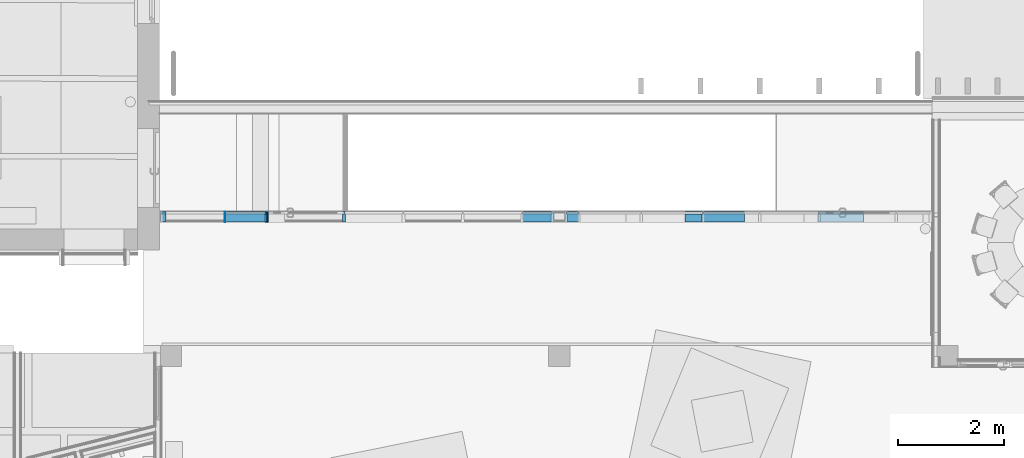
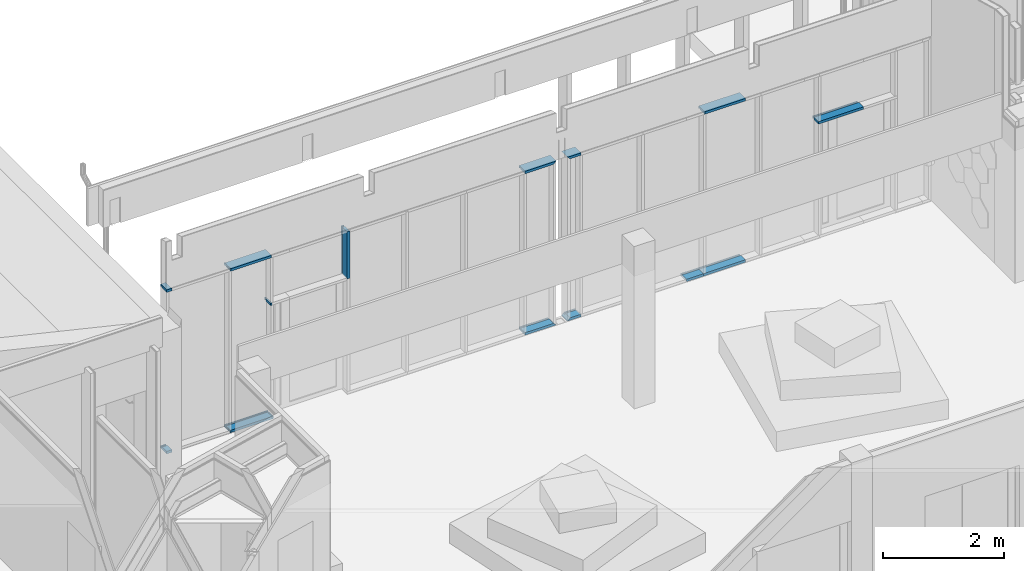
# One storey, part 32 of 153: 17 members, 2 elements without a shape of their own.
"""IFC2X3 building model written with IfcOpenShell, lengths in millimetres."""

from ifc_helpers import new_model, entity, si_unit, converted_unit, derived_unit, money_unit, direction, frame, origin_with_axes, place, context, subcontext, project, spatial, faceted_brep, material, type_object, element, aggregate, save


model = new_model("IFC2X3")

# Units and contexts
model_context = context("Model", 3, precision=0.01, world=origin_with_axes(), true_north=direction((0.0, 1.0)))
body_context = subcontext(model_context, "Body", "Model", "MODEL_VIEW")
ifc_project = project(units=[si_unit("LENGTHUNIT", "METRE", prefix="MILLI"), si_unit("AREAUNIT", "SQUARE_METRE"), si_unit("VOLUMEUNIT", "CUBIC_METRE"), converted_unit("PLANEANGLEUNIT", "DEGREE", entity("IfcPlaneAngleMeasure", 0.0174532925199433), si_unit("PLANEANGLEUNIT", "RADIAN"), dimensions=[0, 0, 0, 0, 0, 0, 0]), money_unit("EUR"), converted_unit("TIMEUNIT", "Year", entity("IfcTimeMeasure", 31557600.0), si_unit("TIMEUNIT", "SECOND"), dimensions=[0, 0, 1, 0, 0, 0, 0]), si_unit("MASSUNIT", "GRAM", prefix="KILO"), si_unit("THERMODYNAMICTEMPERATUREUNIT", "DEGREE_CELSIUS"), si_unit("LUMINOUSINTENSITYUNIT", "LUMEN"), si_unit("ENERGYUNIT", "JOULE", prefix="MEGA"), derived_unit("THERMALCONDUCTANCEUNIT", [(si_unit("POWERUNIT", "WATT"), 1), (si_unit("LENGTHUNIT", "METRE"), -1), (si_unit("THERMODYNAMICTEMPERATUREUNIT", "KELVIN"), -1)]), derived_unit("SPECIFICHEATCAPACITYUNIT", [(si_unit("ENERGYUNIT", "JOULE"), 1), (si_unit("MASSUNIT", "GRAM", prefix="KILO"), -1), (si_unit("THERMODYNAMICTEMPERATUREUNIT", "KELVIN"), -1)]), derived_unit("MASSDENSITYUNIT", [(si_unit("MASSUNIT", "GRAM", prefix="KILO"), 1), (si_unit("VOLUMEUNIT", "CUBIC_METRE"), -1)])], contexts=[model_context])

# Site, building, storey
site_placement = place(None, frame((0.0, 0.0, 8650.0), z_axis=(0.0, 0.0, 1.0), x_axis=(1.0, 0.0, 0.0)))
site = spatial("IfcSite", under=ifc_project, at=site_placement, Name="43301:001:0844", CompositionType="ELEMENT")
building_placement = place(site_placement, origin_with_axes())
building = spatial("IfcBuilding", under=site, at=building_placement, Name="Kuressaare Ametikooli tuulikute mehaanikute õppekorpus", CompositionType="ELEMENT")
storey_placement = place(building_placement, frame((0.0, 0.0, 4100.0), z_axis=(0.0, 0.0, 1.0), x_axis=(1.0, 0.0, 0.0)))
storey = spatial("IfcBuildingStorey", under=building, at=storey_placement, Name="2.korrus", CompositionType="ELEMENT", Elevation=4100.0)

# Curtain wall, members
curtain_wall_type = type_object("IfcCurtainWallType", Name="Curtain Wall Type", PredefinedType="NOTDEFINED")
curtain_wall_1_placement = place(storey_placement, frame((107592.1026822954, 26479.57374875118, 34.9999663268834), z_axis=(0.0, 0.0, 1.0), x_axis=(1.0, 0.0, 0.0)))
curtain_wall_1 = element("IfcCurtainWall", 1, at=curtain_wall_1_placement, inside=storey, type_object=curtain_wall_type, Name="SKF-2.1,EI60")
ifc_material = material(Name="Aluminium")
member_type_1 = type_object("IfcMemberType", Name="Boundary Frame 50 x 200", PredefinedType="NOTDEFINED")
member_1_placement = place(curtain_wall_1_placement, frame((-1919.216088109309, 0.0, 2300.000019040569), z_axis=(0.9999999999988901, 0.0, -1.48993266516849e-06), x_axis=(1.48993266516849e-06, 0.0, 0.9999999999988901)))
member_1 = element("IfcMember", 2, at=member_1_placement, type_object=member_type_1, material=ifc_material, context=body_context, shape_type="Brep", body=[
    faceted_brep([(-4.999986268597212, 19.99999999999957, 9.216126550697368), (-4.999986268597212, -19.99999999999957, 9.216126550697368), (-24.99998626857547, -19.99999999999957, 9.216156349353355), (-24.99998626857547, -30.00000000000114, 9.216156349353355), (25.00001373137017, -30.00000000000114, 9.216081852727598), (25.00001373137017, -19.99999999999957, 9.216081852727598), (5.000013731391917, -19.99999999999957, 9.216111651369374), (5.000013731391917, 19.99999999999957, 9.216111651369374), (25.00001373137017, 19.99999999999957, 9.216081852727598), (25.00001373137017, 170.0000000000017, 9.216081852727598), (-24.99998626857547, 170.0000000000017, 9.216156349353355), (-24.99998626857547, 19.99999999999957, 9.216156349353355), (-5.000037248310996, 19.99999999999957, -24.99999255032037), (-5.000037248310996, -19.99999999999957, -24.99999255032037), (-25.00003724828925, -19.99999999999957, -24.99996275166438), (-25.00003724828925, -30.00000000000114, -24.99996275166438), (24.99996275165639, -30.00000000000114, -25.00003724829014), (24.99996275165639, -19.99999999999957, -25.00003724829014), (4.999962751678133, -19.99999999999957, -25.00000744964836), (4.999962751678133, 19.99999999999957, -25.00000744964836), (24.99996275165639, 19.99999999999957, -25.00003724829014), (24.99996275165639, 170.0000000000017, -25.00003724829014), (-25.00003724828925, 170.0000000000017, -24.99996275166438), (-25.00003724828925, 19.99999999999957, -24.99996275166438)], [[[0, 1, 2, 3, 4, 5, 6, 7, 8, 9, 10, 11]], [[0, 12, 13, 1]], [[1, 13, 14, 2]], [[14, 15, 3, 2]], [[3, 15, 16, 4]], [[17, 5, 4, 16]], [[5, 17, 18, 6]], [[7, 6, 18, 19]], [[8, 7, 19, 20]], [[8, 20, 21, 9]], [[9, 21, 22, 10]], [[11, 10, 22, 23]], [[11, 23, 12, 0]], [[13, 12, 23, 22, 21, 20, 19, 18, 17, 16, 15, 14]]]),
])
member_2_placement = place(curtain_wall_1_placement, frame((-1910.000006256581, 0.0, 0.0), z_axis=(1.0, 0.0, 0.0), x_axis=(0.0, 0.0, 1.0)))
member_2 = element("IfcMember", 3, at=member_2_placement, type_object=member_type_1, material=ifc_material, context=body_context, shape_type="Brep", body=[
    faceted_brep([(4.999999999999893, 19.99999999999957, 27.79156504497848), (25.00000000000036, 19.99999999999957, 27.79156504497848), (25.00000000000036, 170.0000000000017, 27.79156504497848), (-25.00000000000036, 170.0000000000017, 27.79156504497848), (-25.00000000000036, -30.00000000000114, 27.79156504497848), (25.00000000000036, -30.00000000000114, 27.79156504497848), (25.00000000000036, -19.99999999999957, 27.79156504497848), (4.999999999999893, -19.99999999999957, 27.79156504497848), (4.999999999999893, 19.99999999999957, 0.0), (25.00000000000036, 19.99999999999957, 0.0), (25.00000000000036, 170.0000000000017, 0.0), (-25.00000000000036, 170.0000000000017, 0.0), (-25.00000000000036, -30.00000000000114, 0.0), (25.00000000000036, -30.00000000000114, 0.0), (25.00000000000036, -19.99999999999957, 0.0), (4.999999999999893, -19.99999999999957, 0.0)], [[[0, 1, 2, 3, 4, 5, 6, 7]], [[0, 8, 9, 1]], [[9, 10, 2, 1]], [[10, 11, 3, 2]], [[11, 12, 4, 3]], [[12, 13, 5, 4]], [[6, 5, 13, 14]], [[14, 15, 7, 6]], [[7, 15, 8, 0]], [[8, 15, 14, 13, 12, 11, 10, 9]]]),
])
member_3_placement = place(curtain_wall_1_placement, frame((-2705.896576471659, 0.0, 0.0), z_axis=(1.0, 0.0, 0.0), x_axis=(0.0, 0.0, 1.0)))
member_3 = element("IfcMember", 4, at=member_3_placement, type_object=member_type_1, material=ifc_material, context=body_context, shape_type="Brep", body=[
    faceted_brep([(4.999999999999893, 19.99999999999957, 5.896576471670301), (5.896576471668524, 19.99999999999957, 5.896576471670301), (5.896576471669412, 170.0000000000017, 5.896576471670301), (-25.00000000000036, 170.0000000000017, 5.896576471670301), (-25.00000000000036, -30.00000000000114, 5.896576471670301), (5.896576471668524, -30.00000000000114, 5.896576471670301), (5.896576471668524, -19.99999999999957, 5.896576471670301), (4.999999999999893, -19.99999999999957, 5.896576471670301), (4.999999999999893, 19.99999999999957, 4.999999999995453), (4.999999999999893, -19.99999999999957, 4.999999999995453), (0.0, -30.00000000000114, 0.0), (0.0, 170.0000000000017, 0.0), (-25.00000000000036, 170.0000000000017, 0.0), (-25.00000000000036, -30.00000000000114, 0.0)], [[[0, 1, 2, 3, 4, 5, 6, 7]], [[0, 8, 1]], [[8, 9, 6, 5, 10, 11, 2, 1]], [[2, 11, 12, 3]], [[3, 12, 13, 4]], [[10, 5, 4, 13]], [[9, 7, 6]], [[7, 9, 8, 0]], [[11, 10, 13, 12]]]),
])
member_4_placement = place(curtain_wall_1_placement, frame((2925.000000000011, 0.0, 0.0), z_axis=(1.0, 0.0, 0.0), x_axis=(0.0, 0.0, 1.0)))
member_4 = element("IfcMember", 5, at=member_4_placement, type_object=member_type_1, material=ifc_material, context=body_context, shape_type="Brep", body=[
    faceted_brep([(4.999999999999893, 19.99999999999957, 560.8466960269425), (25.00000000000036, 19.99999999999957, 540.8466962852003), (25.00000000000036, 170.0000000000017, 540.8466962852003), (-25.00000000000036, 170.0000000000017, 590.8466956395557), (-25.00000000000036, -30.00000000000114, 590.8466956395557), (25.00000000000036, -30.00000000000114, 540.8466962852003), (25.00000000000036, -19.99999999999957, 540.8466962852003), (4.999999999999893, -19.99999999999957, 560.8466960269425), (4.999999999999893, 19.99999999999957, 0.0), (25.00000000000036, 19.99999999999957, 0.0), (25.00000000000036, 170.0000000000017, 0.0), (-25.00000000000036, 170.0000000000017, 0.0), (-25.00000000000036, -30.00000000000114, 0.0), (25.00000000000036, -30.00000000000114, 0.0), (25.00000000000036, -19.99999999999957, 0.0), (4.999999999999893, -19.99999999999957, 0.0)], [[[0, 1, 2, 3, 4, 5, 6, 7]], [[0, 8, 9, 1]], [[9, 10, 2, 1]], [[10, 11, 3, 2]], [[11, 12, 4, 3]], [[12, 13, 5, 4]], [[6, 5, 13, 14]], [[14, 15, 7, 6]], [[7, 15, 8, 0]], [[8, 15, 14, 13, 12, 11, 10, 9]]]),
])
member_5_placement = place(curtain_wall_1_placement, frame((-2699.999999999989, 0.0, 0.0), z_axis=(1.0, 0.0, 0.0), x_axis=(0.0, 0.0, 1.0)))
member_5 = element("IfcMember", 6, at=member_5_placement, type_object=member_type_1, material=ifc_material, context=body_context, shape_type="Brep", body=[
    faceted_brep([(4.999999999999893, 19.99999999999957, 789.9999937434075), (25.00000000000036, 19.99999999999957, 789.9999937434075), (25.00000000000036, 170.0000000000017, 789.9999937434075), (-25.00000000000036, 170.0000000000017, 789.9999937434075), (-25.00000000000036, -30.00000000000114, 789.9999937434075), (25.00000000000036, -30.00000000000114, 789.9999937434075), (25.00000000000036, -19.99999999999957, 789.9999937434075), (4.999999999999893, -19.99999999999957, 789.9999937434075), (4.999999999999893, 19.99999999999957, 0.0), (25.00000000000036, 19.99999999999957, 0.0), (25.00000000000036, 170.0000000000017, 0.0), (-25.00000000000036, 170.0000000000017, 0.0), (-25.00000000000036, -30.00000000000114, 0.0), (25.00000000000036, -30.00000000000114, 0.0), (25.00000000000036, -19.99999999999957, 0.0), (4.999999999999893, -19.99999999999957, 0.0)], [[[0, 1, 2, 3, 4, 5, 6, 7]], [[0, 8, 9, 1]], [[9, 10, 2, 1]], [[10, 11, 3, 2]], [[11, 12, 4, 3]], [[12, 13, 5, 4]], [[6, 5, 13, 14]], [[14, 15, 7, 6]], [[7, 15, 8, 0]], [[8, 15, 14, 13, 12, 11, 10, 9]]]),
])
member_6_placement = place(curtain_wall_1_placement, frame((-3900.000012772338, 0.0, 0.0), z_axis=(1.0, 0.0, 0.0), x_axis=(0.0, 0.0, 1.0)))
member_6 = element("IfcMember", 7, at=member_6_placement, type_object=member_type_1, material=ifc_material, context=body_context, shape_type="Brep", body=[
    faceted_brep([(4.999999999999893, 19.99999999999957, 75.00001277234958), (25.00000000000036, 19.99999999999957, 75.00001277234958), (25.00000000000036, 170.0000000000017, 75.00001277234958), (-25.00000000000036, 170.0000000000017, 75.00001277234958), (-25.00000000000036, -30.00000000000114, 75.00001277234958), (25.00000000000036, -30.00000000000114, 75.00001277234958), (25.00000000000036, -19.99999999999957, 75.00001277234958), (4.999999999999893, -19.99999999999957, 75.00001277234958), (4.999999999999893, 19.99999999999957, -25.00000000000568), (25.00000000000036, 19.99999999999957, -25.00000000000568), (25.00000000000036, 170.0000000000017, -25.00000000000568), (-25.00000000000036, 170.0000000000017, -25.00000000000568), (-25.00000000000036, -30.00000000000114, -25.00000000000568), (25.00000000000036, -30.00000000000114, -25.00000000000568), (25.00000000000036, -19.99999999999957, -25.00000000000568), (4.999999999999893, -19.99999999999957, -25.00000000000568)], [[[0, 1, 2, 3, 4, 5, 6, 7]], [[0, 8, 9, 1]], [[9, 10, 2, 1]], [[10, 11, 3, 2]], [[11, 12, 4, 3]], [[12, 13, 5, 4]], [[6, 5, 13, 14]], [[14, 15, 7, 6]], [[7, 15, 8, 0]], [[8, 15, 14, 13, 12, 11, 10, 9]]]),
])
member_7_placement = place(curtain_wall_1_placement, frame((-3824.999999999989, 0.0, 3260.00008492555), z_axis=(-0.9999999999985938, 0.0, -1.677044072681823e-06), x_axis=(1.677044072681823e-06, 0.0, -0.9999999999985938)))
member_7 = element("IfcMember", 8, at=member_7_placement, type_object=member_type_1, material=ifc_material, context=body_context, shape_type="Brep", body=[
    faceted_brep([(4.999832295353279, 19.99999999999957, 100.0001469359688), (24.99983229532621, 19.99999999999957, 100.0001804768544), (24.99983229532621, 170.0000000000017, 100.0001804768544), (-25.00016770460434, 170.0000000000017, 100.0000966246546), (-25.00016770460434, -30.00000000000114, 100.0000966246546), (24.99983229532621, -30.00000000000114, 100.0001804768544), (24.99983229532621, -19.99999999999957, 100.0001804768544), (4.999832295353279, -19.99999999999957, 100.0001469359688), (5.000000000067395, 19.99999999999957, -3.60527678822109e-05), (25.00000000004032, 19.99999999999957, -2.511882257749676e-06), (25.00000000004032, 170.0000000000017, -2.511882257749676e-06), (-24.99999999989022, 170.0000000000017, -8.636408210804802e-05), (-24.99999999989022, -30.00000000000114, -8.636408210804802e-05), (25.00000000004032, -30.00000000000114, -2.511882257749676e-06), (25.00000000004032, -19.99999999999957, -2.511882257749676e-06), (5.000000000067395, -19.99999999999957, -3.60527678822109e-05)], [[[0, 1, 2, 3, 4, 5, 6, 7]], [[0, 8, 9, 1]], [[9, 10, 2, 1]], [[10, 11, 3, 2]], [[11, 12, 4, 3]], [[12, 13, 5, 4]], [[6, 5, 13, 14]], [[14, 15, 7, 6]], [[7, 15, 8, 0]], [[8, 15, 14, 13, 12, 11, 10, 9]]]),
])
member_8_placement = place(curtain_wall_1_placement, frame((-2699.999999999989, 0.0, 3260.00005360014), z_axis=(-0.9999999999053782, 0.0, -1.375657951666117e-05), x_axis=(1.375657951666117e-05, 0.0, -0.9999999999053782)))
member_8 = element("IfcMember", 9, at=member_8_placement, type_object=member_type_1, material=ifc_material, context=body_context, shape_type="Brep", body=[
    faceted_brep([(5.000000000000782, 19.99999999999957, 0.8966452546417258), (5.897001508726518, 19.99999999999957, -0.0003439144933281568), (5.897001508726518, 170.0000000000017, -0.0003439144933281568), (0.0, 170.0000000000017, 5.896576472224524), (0.0, -30.00000000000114, 5.896576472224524), (5.897001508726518, -30.00000000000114, -0.0003439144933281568), (5.897001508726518, -19.99999999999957, -0.0003439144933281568), (5.000000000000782, -19.99999999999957, 0.8966452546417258), (4.999999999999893, 19.99999999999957, -0.0003439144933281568), (4.999999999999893, -19.99999999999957, -0.0003439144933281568), (-25.00000000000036, -30.00000000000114, -0.0003439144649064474), (-25.00000000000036, 170.0000000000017, -0.0003439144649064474), (-24.99999999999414, 170.0000000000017, 5.896576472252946), (-24.99999999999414, -30.00000000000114, 5.896576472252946)], [[[0, 1, 2, 3, 4, 5, 6, 7]], [[0, 8, 1]], [[8, 9, 6, 5, 10, 11, 2, 1]], [[3, 2, 11, 12]], [[4, 3, 12, 13]], [[5, 4, 13, 10]], [[9, 7, 6]], [[7, 9, 8, 0]], [[12, 11, 10, 13]]]),
])
member_9_placement = place(curtain_wall_1_placement, frame((-1919.21608482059, 0.0, 3260.00005360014), z_axis=(-1.0, 0.0, 0.0), x_axis=(0.0, 0.0, -1.0)))
member_9 = element("IfcMember", 10, at=member_9_placement, type_object=member_type_1, material=ifc_material, context=body_context, shape_type="Brep", body=[
    faceted_brep([(4.999999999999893, 19.99999999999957, 780.7842590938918), (25.00000000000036, 19.99999999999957, 780.7842590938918), (25.00000000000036, 170.0000000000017, 780.7842590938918), (-25.00000000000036, 170.0000000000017, 780.7842590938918), (-25.00000000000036, -30.00000000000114, 780.7842590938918), (25.00000000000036, -30.00000000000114, 780.7842590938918), (25.00000000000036, -19.99999999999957, 780.7842590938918), (4.999999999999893, -19.99999999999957, 780.7842590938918), (4.999999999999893, 19.99999999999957, 0.0), (25.00000000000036, 19.99999999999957, 0.0), (25.00000000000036, 170.0000000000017, 0.0), (-25.00000000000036, 170.0000000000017, 0.0), (-25.00000000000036, -30.00000000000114, 0.0), (25.00000000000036, -30.00000000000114, 0.0), (25.00000000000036, -19.99999999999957, 0.0), (4.999999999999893, -19.99999999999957, 0.0)], [[[0, 1, 2, 3, 4, 5, 6, 7]], [[0, 8, 9, 1]], [[9, 10, 2, 1]], [[10, 11, 3, 2]], [[11, 12, 4, 3]], [[12, 13, 5, 4]], [[6, 5, 13, 14]], [[14, 15, 7, 6]], [[7, 15, 8, 0]], [[8, 15, 14, 13, 12, 11, 10, 9]]]),
])
member_10_placement = place(curtain_wall_1_placement, frame((3490.846738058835, 0.0, 3260.000092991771), z_axis=(-0.9999999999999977, 0.0, -6.961537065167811e-08), x_axis=(6.961537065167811e-08, 0.0, -0.9999999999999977)))
member_10 = element("IfcMember", 11, at=member_10_placement, type_object=member_type_1, material=ifc_material, context=body_context, shape_type="Brep", body=[
    faceted_brep([(4.999960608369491, 19.99999999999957, 565.8467401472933), (24.99996060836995, 19.99999999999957, 565.8467415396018), (24.99996060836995, 170.0000000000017, 565.8467415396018), (-25.00003939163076, 170.0000000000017, 565.8467380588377), (-25.00003939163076, -30.00000000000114, 565.8467380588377), (24.99996060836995, -30.00000000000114, 565.8467415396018), (24.99996060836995, -19.99999999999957, 565.8467415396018), (4.999960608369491, -19.99999999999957, 565.8467401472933), (4.999999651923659, 19.99999999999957, 5.000000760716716), (24.99999825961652, 19.99999999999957, 25.00000380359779), (24.99999825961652, 170.0000000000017, 25.00000380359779), (-24.99999825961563, 170.0000000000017, -25.00000380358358), (-24.99999825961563, -30.00000000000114, -25.00000380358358), (24.99999825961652, -30.00000000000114, 25.00000380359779), (24.99999825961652, -19.99999999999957, 25.00000380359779), (4.999999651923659, -19.99999999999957, 5.000000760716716)], [[[0, 1, 2, 3, 4, 5, 6, 7]], [[0, 8, 9, 1]], [[9, 10, 2, 1]], [[2, 10, 11, 3]], [[3, 11, 12, 4]], [[4, 12, 13, 5]], [[6, 5, 13, 14]], [[14, 15, 7, 6]], [[7, 15, 8, 0]], [[8, 15, 14, 13, 12, 11, 10, 9]]]),
])

curtain_wall_2_placement = place(storey_placement, frame((116907.3849272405, 26479.57374875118, 34.9999663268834), z_axis=(0.0, 0.0, 1.0), x_axis=(1.0, 0.0, 0.0)))
curtain_wall_2 = element("IfcCurtainWall", 12, at=curtain_wall_2_placement, inside=storey, type_object=curtain_wall_type, Name="SKF-2.2,EI60")
member_11_placement = place(curtain_wall_2_placement, frame((-5320.345028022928, 0.0, 3259.999983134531), z_axis=(-1.0, 0.0, 0.0), x_axis=(0.0, 0.0, -1.0)))
member_11 = element("IfcMember", 13, at=member_11_placement, type_object=member_type_1, material=ifc_material, context=body_context, shape_type="Brep", body=[
    faceted_brep([(4.999999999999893, 19.99999999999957, 229.0905246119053), (25.00000000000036, 19.99999999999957, 209.090524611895), (25.00000000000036, 170.0000000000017, 209.090524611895), (-25.00000000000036, 170.0000000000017, 259.0905246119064), (-25.00000000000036, -30.00000000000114, 259.0905246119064), (25.00000000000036, -30.00000000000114, 209.090524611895), (25.00000000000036, -19.99999999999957, 209.090524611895), (4.999999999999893, -19.99999999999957, 229.0905246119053), (4.999999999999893, 19.99999999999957, 0.0), (25.00000000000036, 19.99999999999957, 0.0), (25.00000000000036, 170.0000000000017, 0.0), (-25.00000000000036, 170.0000000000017, 0.0), (-25.00000000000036, -30.00000000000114, 0.0), (25.00000000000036, -30.00000000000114, 0.0), (25.00000000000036, -19.99999999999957, 0.0), (4.999999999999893, -19.99999999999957, 0.0)], [[[0, 1, 2, 3, 4, 5, 6, 7]], [[0, 8, 9, 1]], [[9, 10, 2, 1]], [[10, 11, 3, 2]], [[11, 12, 4, 3]], [[12, 13, 5, 4]], [[6, 5, 13, 14]], [[14, 15, 7, 6]], [[7, 15, 8, 0]], [[8, 15, 14, 13, 12, 11, 10, 9]]]),
])
member_12_placement = place(curtain_wall_2_placement, frame((-2179.435552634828, 0.0, 3259.999983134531), z_axis=(-1.0, 0.0, 0.0), x_axis=(0.0, 0.0, -1.0)))
member_12 = element("IfcMember", 14, at=member_12_placement, type_object=member_type_1, material=ifc_material, context=body_context, shape_type="Brep", body=[
    faceted_brep([(4.999999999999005, 19.99999999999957, 780.7838659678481), (24.99999999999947, 19.99999999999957, 780.7838659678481), (24.99999999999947, 170.0000000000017, 780.7838659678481), (-25.00000000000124, 170.0000000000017, 780.7838659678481), (-25.00000000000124, -30.00000000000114, 780.7838659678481), (24.99999999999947, -30.00000000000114, 780.7838659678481), (24.99999999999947, -19.99999999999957, 780.7838659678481), (4.999999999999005, -19.99999999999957, 780.7838659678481), (4.999999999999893, 19.99999999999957, 0.0), (25.00000000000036, 19.99999999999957, 0.0), (25.00000000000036, 170.0000000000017, 0.0), (-25.00000000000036, 170.0000000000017, 0.0), (-25.00000000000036, -30.00000000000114, 0.0), (25.00000000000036, -30.00000000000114, 0.0), (25.00000000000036, -19.99999999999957, 0.0), (4.999999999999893, -19.99999999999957, 0.0)], [[[0, 1, 2, 3, 4, 5, 6, 7]], [[0, 8, 9, 1]], [[9, 10, 2, 1]], [[10, 11, 3, 2]], [[11, 12, 4, 3]], [[12, 13, 5, 4]], [[6, 5, 13, 14]], [[14, 15, 7, 6]], [[7, 15, 8, 0]], [[8, 15, 14, 13, 12, 11, 10, 9]]]),
])
member_13_placement = place(curtain_wall_2_placement, frame((-2960.219440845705, 0.0, 0.0), z_axis=(1.0, 0.0, 0.0), x_axis=(0.0, 0.0, 1.0)))
member_13 = element("IfcMember", 15, at=member_13_placement, type_object=member_type_1, material=ifc_material, context=body_context, shape_type="Brep", body=[
    faceted_brep([(4.999999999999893, 19.99999999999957, 780.7838882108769), (25.00000000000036, 19.99999999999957, 780.7838882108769), (25.00000000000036, 170.0000000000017, 780.7838882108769), (-25.00000000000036, 170.0000000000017, 780.7838882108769), (-25.00000000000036, -30.00000000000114, 780.7838882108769), (25.00000000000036, -30.00000000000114, 780.7838882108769), (25.00000000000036, -19.99999999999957, 780.7838882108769), (4.999999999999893, -19.99999999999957, 780.7838882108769), (4.999999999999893, 19.99999999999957, -25.00000000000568), (25.00000000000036, 19.99999999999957, -25.00000000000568), (25.00000000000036, 170.0000000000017, -25.00000000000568), (-25.00000000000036, 170.0000000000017, -25.00000000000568), (-25.00000000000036, -30.00000000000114, -25.00000000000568), (25.00000000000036, -30.00000000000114, -25.00000000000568), (25.00000000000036, -19.99999999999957, -25.00000000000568), (4.999999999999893, -19.99999999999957, -25.00000000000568)], [[[0, 1, 2, 3, 4, 5, 6, 7]], [[0, 8, 9, 1]], [[9, 10, 2, 1]], [[10, 11, 3, 2]], [[11, 12, 4, 3]], [[12, 13, 5, 4]], [[6, 5, 13, 14]], [[14, 15, 7, 6]], [[7, 15, 8, 0]], [[8, 15, 14, 13, 12, 11, 10, 9]]]),
])
member_14_placement = place(curtain_wall_2_placement, frame((-3304.435552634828, 0.0, 0.0), z_axis=(1.0, 0.0, 0.0), x_axis=(0.0, 0.0, 1.0)))
member_14 = element("IfcMember", 16, at=member_14_placement, type_object=member_type_1, material=ifc_material, context=body_context, shape_type="Brep", body=[
    faceted_brep([(4.999999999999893, 19.99999999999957, 319.2161414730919), (25.00000000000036, 19.99999999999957, 319.2161414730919), (25.00000000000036, 170.0000000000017, 319.2161414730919), (-25.00000000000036, 170.0000000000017, 319.2161414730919), (-25.00000000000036, -30.00000000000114, 319.2161414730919), (25.00000000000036, -30.00000000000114, 319.2161414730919), (25.00000000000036, -19.99999999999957, 319.2161414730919), (4.999999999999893, -19.99999999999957, 319.2161414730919), (4.999999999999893, 19.99999999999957, 0.0), (25.00000000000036, 19.99999999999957, 0.0), (25.00000000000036, 170.0000000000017, 0.0), (-25.00000000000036, 170.0000000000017, 0.0), (-25.00000000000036, -30.00000000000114, 0.0), (25.00000000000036, -30.00000000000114, 0.0), (25.00000000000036, -19.99999999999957, 0.0), (4.999999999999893, -19.99999999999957, 0.0)], [[[0, 1, 2, 3, 4, 5, 6, 7]], [[0, 8, 9, 1]], [[9, 10, 2, 1]], [[10, 11, 3, 2]], [[11, 12, 4, 3]], [[12, 13, 5, 4]], [[6, 5, 13, 14]], [[14, 15, 7, 6]], [[7, 15, 8, 0]], [[8, 15, 14, 13, 12, 11, 10, 9]]]),
])
member_15_placement = place(curtain_wall_2_placement, frame((-765.2822352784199, 0.0, 2300.000031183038), z_axis=(1.0, 0.0, 0.0), x_axis=(0.0, 0.0, 1.0)))
member_15 = element("IfcMember", 17, at=member_15_placement, type_object=member_type_1, material=ifc_material, context=body_context, shape_type="Brep", body=[
    faceted_brep([(-4.999999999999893, 19.99999999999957, 835.8466826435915), (-4.999999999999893, -19.99999999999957, 835.8466826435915), (-25.00000000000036, -19.99999999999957, 835.8466826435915), (-25.00000000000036, -30.00000000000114, 835.8466826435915), (25.00000000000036, -30.00000000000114, 835.8466826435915), (25.00000000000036, -19.99999999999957, 835.8466826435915), (4.999999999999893, -19.99999999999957, 835.8466826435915), (4.999999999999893, 19.99999999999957, 835.8466826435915), (25.00000000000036, 19.99999999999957, 835.8466826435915), (25.00000000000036, 170.0000000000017, 835.8466826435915), (-25.00000000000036, 170.0000000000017, 835.8466826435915), (-25.00000000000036, 19.99999999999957, 835.8466826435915), (-4.999999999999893, 19.99999999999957, -24.99999986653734), (-4.999999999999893, -19.99999999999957, -24.99999986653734), (-25.00000000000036, -19.99999999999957, -24.99999986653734), (-25.00000000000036, -30.00000000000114, -24.99999986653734), (25.00000000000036, -30.00000000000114, -24.99999986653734), (25.00000000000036, -19.99999999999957, -24.99999986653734), (4.999999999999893, -19.99999999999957, -24.99999986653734), (4.999999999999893, 19.99999999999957, -24.99999986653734), (25.00000000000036, 19.99999999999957, -24.99999986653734), (25.00000000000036, 170.0000000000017, -24.99999986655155), (-25.00000000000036, 170.0000000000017, -24.99999986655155), (-25.00000000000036, 19.99999999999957, -24.99999986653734)], [[[0, 1, 2, 3, 4, 5, 6, 7, 8, 9, 10, 11]], [[0, 12, 13, 1]], [[1, 13, 14, 2]], [[14, 15, 3, 2]], [[3, 15, 16, 4]], [[17, 5, 4, 16]], [[5, 17, 18, 6]], [[7, 6, 18, 19]], [[8, 7, 19, 20]], [[8, 20, 21, 9]], [[9, 21, 22, 10]], [[11, 10, 22, 23]], [[11, 23, 12, 0]], [[13, 12, 23, 22, 21, 20, 19, 18, 17, 16, 15, 14]]]),
])
member_16_placement = place(curtain_wall_2_placement, frame((-5554.435552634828, 0.0, 0.0), z_axis=(1.0, 0.0, 0.0), x_axis=(0.0, 0.0, 1.0)))
member_16 = element("IfcMember", 18, at=member_16_placement, type_object=member_type_1, material=ifc_material, context=body_context, shape_type="Brep", body=[
    faceted_brep([(4.999999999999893, 19.99999999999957, 234.0905246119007), (25.00000000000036, 19.99999999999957, 234.0905246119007), (25.00000000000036, 170.0000000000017, 234.0905246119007), (-25.00000000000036, 170.0000000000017, 234.0905246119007), (-25.00000000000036, -30.00000000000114, 234.0905246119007), (25.00000000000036, -30.00000000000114, 234.0905246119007), (25.00000000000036, -19.99999999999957, 234.0905246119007), (4.999999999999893, -19.99999999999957, 234.0905246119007), (4.999999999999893, 19.99999999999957, 4.999999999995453), (25.00000000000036, 19.99999999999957, 25.00000000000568), (25.00000000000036, 170.0000000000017, 25.00000000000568), (-25.00000000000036, 170.0000000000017, -25.00000000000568), (-25.00000000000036, -30.00000000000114, -25.00000000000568), (25.00000000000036, -30.00000000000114, 25.00000000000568), (25.00000000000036, -19.99999999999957, 25.00000000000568), (4.999999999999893, -19.99999999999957, 4.999999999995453)], [[[0, 1, 2, 3, 4, 5, 6, 7]], [[0, 8, 9, 1]], [[9, 10, 2, 1]], [[2, 10, 11, 3]], [[3, 11, 12, 4]], [[4, 12, 13, 5]], [[6, 5, 13, 14]], [[14, 15, 7, 6]], [[7, 15, 8, 0]], [[8, 15, 14, 13, 12, 11, 10, 9]]]),
])
aggregate(curtain_wall_2, [member_11, member_12, member_13, member_14, member_15, member_16])

# Member
member_type_2 = type_object("IfcMemberType", Name="Mullion Frame 50 x 200", PredefinedType="NOTDEFINED")
member_17_placement = place(curtain_wall_1_placement, frame((-449.9999999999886, 0.0, 2300.000019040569), z_axis=(0.0, 0.0, 1.0), x_axis=(-1.0, 0.0, 0.0)))
member_17 = element("IfcMember", 19, at=member_17_placement, type_object=member_type_2, material=ifc_material, context=body_context, shape_type="Brep", body=[
    faceted_brep([(-4.999999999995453, 19.99999999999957, 954.9999594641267), (-4.999999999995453, -19.99999999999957, 954.9999594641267), (-25.00000000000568, -19.99999999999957, 954.9999594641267), (-25.00000000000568, -30.00000000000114, 954.9999594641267), (25.00000000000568, -30.00000000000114, 954.9999594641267), (25.00000000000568, -19.99999999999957, 954.9999594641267), (4.999999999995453, -19.99999999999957, 954.9999594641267), (4.999999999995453, 19.99999999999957, 954.9999594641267), (25.00000000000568, 19.99999999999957, 954.9999594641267), (25.00000000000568, 170.0000000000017, 954.9999594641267), (-25.00000000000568, 170.0000000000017, 954.9999594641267), (-25.00000000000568, 19.99999999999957, 954.9999594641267), (-4.999999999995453, 19.99999999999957, 0.0), (-4.999999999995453, -19.99999999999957, 0.0), (-25.00000000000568, -19.99999999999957, 0.0), (-25.00000000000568, -30.00000000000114, 0.0), (25.00000000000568, -30.00000000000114, 0.0), (25.00000000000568, -19.99999999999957, 0.0), (4.999999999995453, -19.99999999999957, 0.0), (4.999999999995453, 19.99999999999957, 0.0), (25.00000000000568, 19.99999999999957, 0.0), (25.00000000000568, 170.0000000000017, 0.0), (-25.00000000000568, 170.0000000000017, 0.0), (-25.00000000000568, 19.99999999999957, 0.0)], [[[0, 1, 2, 3, 4, 5, 6, 7, 8, 9, 10, 11]], [[0, 12, 13, 1]], [[1, 13, 14, 2]], [[14, 15, 3, 2]], [[3, 15, 16, 4]], [[17, 5, 4, 16]], [[5, 17, 18, 6]], [[7, 6, 18, 19]], [[8, 7, 19, 20]], [[8, 20, 21, 9]], [[9, 21, 22, 10]], [[11, 10, 22, 23]], [[11, 23, 12, 0]], [[13, 12, 23, 22, 21, 20, 19, 18, 17, 16, 15, 14]]]),
])

aggregate(curtain_wall_1, [member_17, member_1, member_2, member_3, member_4, member_5, member_6, member_7, member_8, member_9, member_10])

save(model, "model.ifc")
